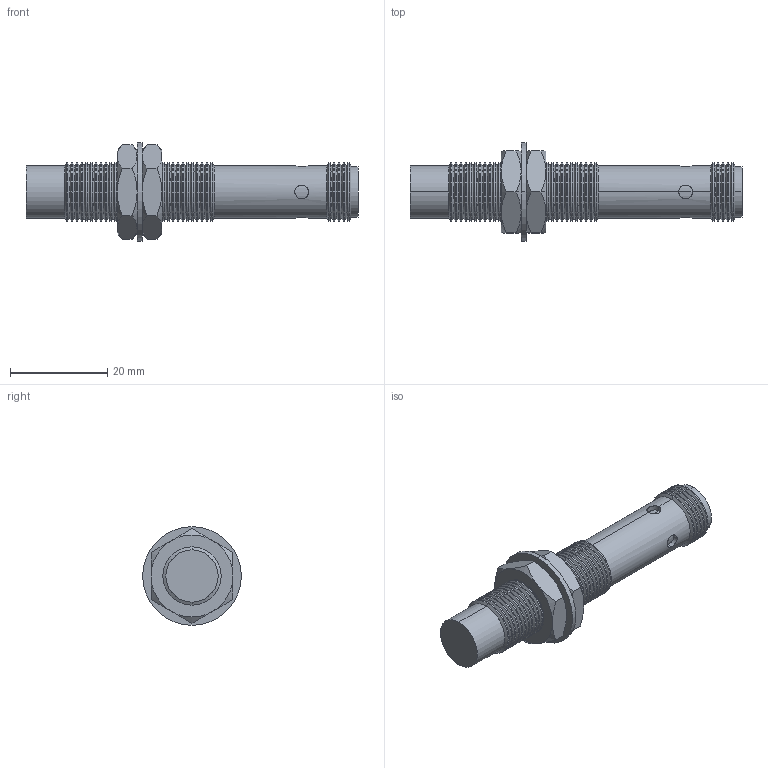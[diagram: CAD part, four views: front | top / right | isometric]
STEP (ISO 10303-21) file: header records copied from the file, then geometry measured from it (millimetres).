
FILE_DESCRIPTION (( 'STEP AP203' ), '1' );
FILE_NAME ('90-29417-068.STEP', '2015-11-30T02:37:16', ( 'Sam' ), ( 'Spade' ), 'SwSTEP 2.0', 'SolidWorks 2002296', '' );
FILE_SCHEMA (( 'CONFIG_CONTROL_DESIGN' ));
Length unit declared in the file: inch
Products named in the file (13): 90-29417-068; Imported12; Imported14; Imported13; Imported18; Imported17; Imported16; Imported15; Imported22; Imported21; Imported20; Imported19; Imported23
Assembly tree (12 placements, depth 2):
  90-29417-068
    Imported17
    Imported22
    Imported16
    Imported20
    Imported14
    Imported15
    Imported21
    Imported18
    Imported13
    Imported23
    Imported19
    Imported12
Bounding box: 68.33 x 20.32 x 20.32 mm (x, y, z)
Volume: 7667.6 mm3; surface area: 6939.2 mm2
Topology: 12 solids, 12 shells, 437 faces, 1017 edges, 597 vertices
Faces by surface type: cone 207, cylinder 138, plane 84, bspline 8
Entity records: 14273 total; most frequent: CARTESIAN_POINT 2746, DIRECTION 2306, ORIENTED_EDGE 2018, EDGE_CURVE 1009, AXIS2_PLACEMENT_3D 917, VERTEX_POINT 597, CIRCLE 473, LINE 472
